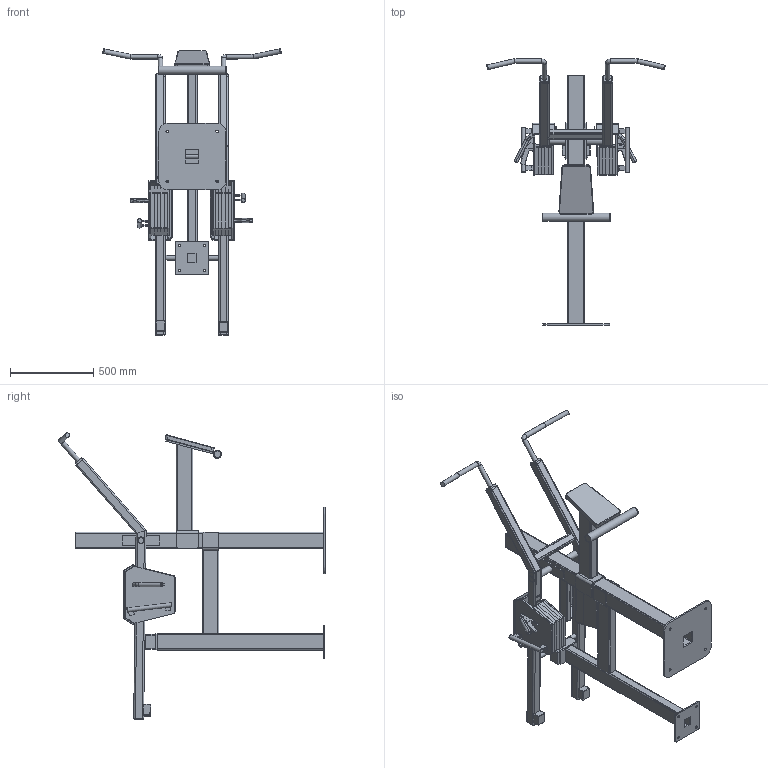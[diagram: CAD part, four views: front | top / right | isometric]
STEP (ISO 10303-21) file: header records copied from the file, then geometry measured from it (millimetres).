
FILE_DESCRIPTION(/* description */ (''),/* implementation_level */ '2;1');
FILE_NAME(/* name */ 'OGFA24_3D_Low.step',/* time_stamp */ '2025-11-11T16:08:38+02:00',/* author */ (''),/* organization */ (''),/* preprocessor_version */ 'ST-DEVELOPER v20.1',/* originating_system */ 'Autodesk Translation Framework v14.21.0.0',/* authorisation */ '');
FILE_SCHEMA (('AUTOMOTIVE_DESIGN { 1 0 10303 214 3 1 1 }'));
Length unit declared in the file: millimetre
Products named in the file (1): OGFA24_3D_Low
Bounding box: 1070.9 x 1600.13 x 1719.12 mm (x, y, z)
Volume: 28013683.2 mm3; surface area: 7425552.3 mm2
Topology: 71 solids, 71 shells, 1304 faces, 3222 edges, 2054 vertices
Faces by surface type: plane 684, cylinder 532, torus 54, bspline 14, sphere 12, cone 8
Full cylindrical faces by diameter (mm): 6.5 x1, 8.5 x4, 11 x1, 11.8 x1, 13 x40, 14 x4, 16 x4, 18.5 x2, 25 x3, 28 x7, 28.2 x2, 29 x4, 30 x2, 31 x9, 39.8 x2, 40 x7, 40.4 x4, 47 x2, 50 x1
Entity records: 40124 total; most frequent: CARTESIAN_POINT 7803, DIRECTION 6920, ORIENTED_EDGE 6444, EDGE_CURVE 3222, AXIS2_PLACEMENT_3D 2459, VERTEX_POINT 2054, LINE 2002, VECTOR 2002
